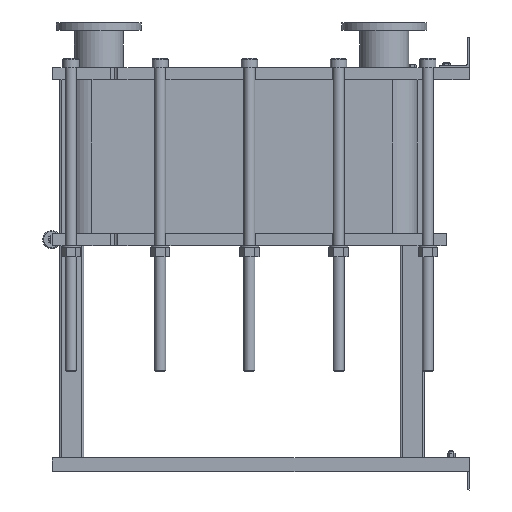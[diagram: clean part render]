
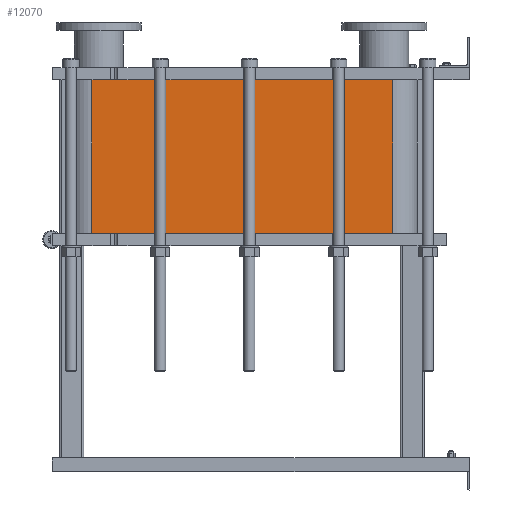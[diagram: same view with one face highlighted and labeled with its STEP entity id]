
A CAD part, left-side view. The second image highlights one B-rep face of the part: STEP entity #12070.
In plain terms, the highlighted planar face has unit normal (-1, 0, 0).
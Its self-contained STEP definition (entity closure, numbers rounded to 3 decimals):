
#1064=LINE('',#21140,#2164);
#1065=LINE('',#21144,#2165);
#1066=LINE('',#21146,#2166);
#1067=LINE('',#21147,#2167);
#2164=VECTOR('',#15790,10.);
#2165=VECTOR('',#15795,10.);
#2166=VECTOR('',#15796,10.);
#2167=VECTOR('',#15797,10.);
#3304=FACE_OUTER_BOUND('',#4091,.T.);
#4091=EDGE_LOOP('',(#9793,#9794,#9795,#9796));
#5677=VERTEX_POINT('',#21137);
#5678=VERTEX_POINT('',#21139);
#5679=VERTEX_POINT('',#21143);
#5680=VERTEX_POINT('',#21145);
#7118=EDGE_CURVE('',#5678,#5677,#1064,.T.);
#7120=EDGE_CURVE('',#5677,#5679,#1065,.T.);
#7121=EDGE_CURVE('',#5680,#5679,#1066,.T.);
#7122=EDGE_CURVE('',#5680,#5678,#1067,.T.);
#9793=ORIENTED_EDGE('',*,*,#7120,.T.);
#9794=ORIENTED_EDGE('',*,*,#7121,.F.);
#9795=ORIENTED_EDGE('',*,*,#7122,.T.);
#9796=ORIENTED_EDGE('',*,*,#7118,.T.);
#11441=PLANE('',#13191);
#12070=ADVANCED_FACE('',(#3304),#11441,.T.);
#13191=AXIS2_PLACEMENT_3D('',#21142,#15793,#15794);
#15790=DIRECTION('',(0.,0.,-1.));
#15793=DIRECTION('center_axis',(-1.,0.,0.));
#15794=DIRECTION('ref_axis',(0.,1.,0.));
#15795=DIRECTION('',(0.,-1.,0.));
#15796=DIRECTION('',(0.,0.,-1.));
#15797=DIRECTION('',(0.,1.,0.));
#21137=CARTESIAN_POINT('',(-248.152,1243.818,-507.15));
#21139=CARTESIAN_POINT('',(-248.152,1243.818,0.));
#21140=CARTESIAN_POINT('',(-248.152,1243.818,0.));
#21142=CARTESIAN_POINT('Origin',(-248.152,251.818,0.));
#21143=CARTESIAN_POINT('',(-248.152,251.818,-507.15));
#21144=CARTESIAN_POINT('',(-248.152,499.818,-507.15));
#21145=CARTESIAN_POINT('',(-248.152,251.818,0.));
#21146=CARTESIAN_POINT('',(-248.152,251.818,0.));
#21147=CARTESIAN_POINT('',(-248.152,251.818,0.));
